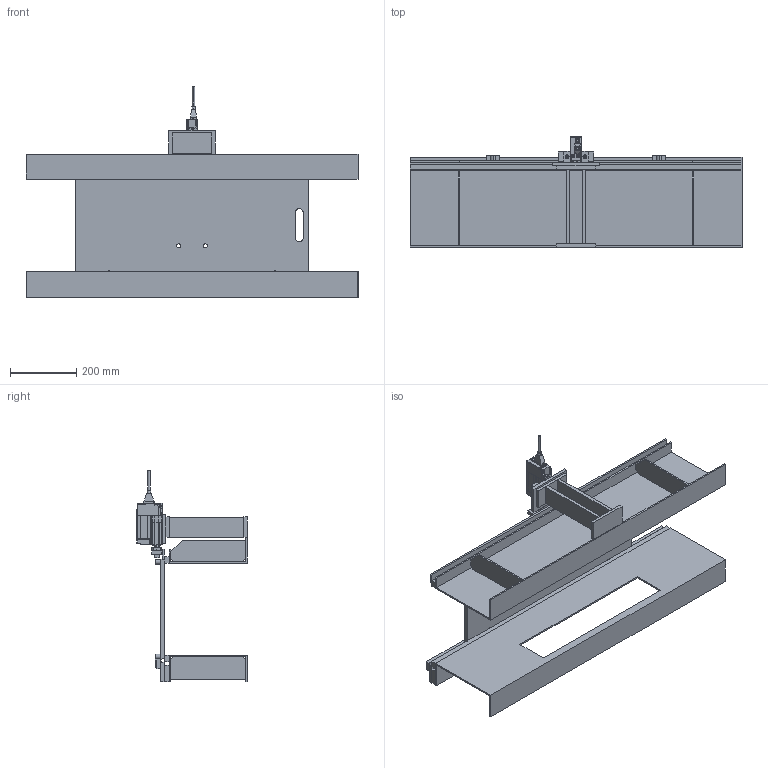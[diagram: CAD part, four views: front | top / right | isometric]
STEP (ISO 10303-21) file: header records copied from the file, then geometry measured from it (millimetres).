
FILE_DESCRIPTION (( 'STEP AP214' ), '1' );
FILE_NAME ('押付け位置決め機構_組立図.STEP', '2024-06-25T08:00:32', ( '' ), ( '' ), 'SwSTEP 2.0', 'SolidWorks 2023', '' );
FILE_SCHEMA (( 'AUTOMOTIVE_DESIGN' ));
Length unit declared in the file: millimetre
Products named in the file (1): 押付け位置決め機構_組立図
Bounding box: 1000 x 333 x 637 mm (x, y, z)
Volume: 8221991.2 mm3; surface area: 2618215.5 mm2
Topology: 27 solids, 27 shells, 925 faces, 2309 edges, 1488 vertices
Faces by surface type: plane 607, cylinder 221, cone 93, sphere 2, torus 2
Entity records: 27820 total; most frequent: CARTESIAN_POINT 5189, DIRECTION 4571, ORIENTED_EDGE 4558, EDGE_CURVE 2279, LINE 1683, VECTOR 1683, VERTEX_POINT 1488, AXIS2_PLACEMENT_3D 1444
